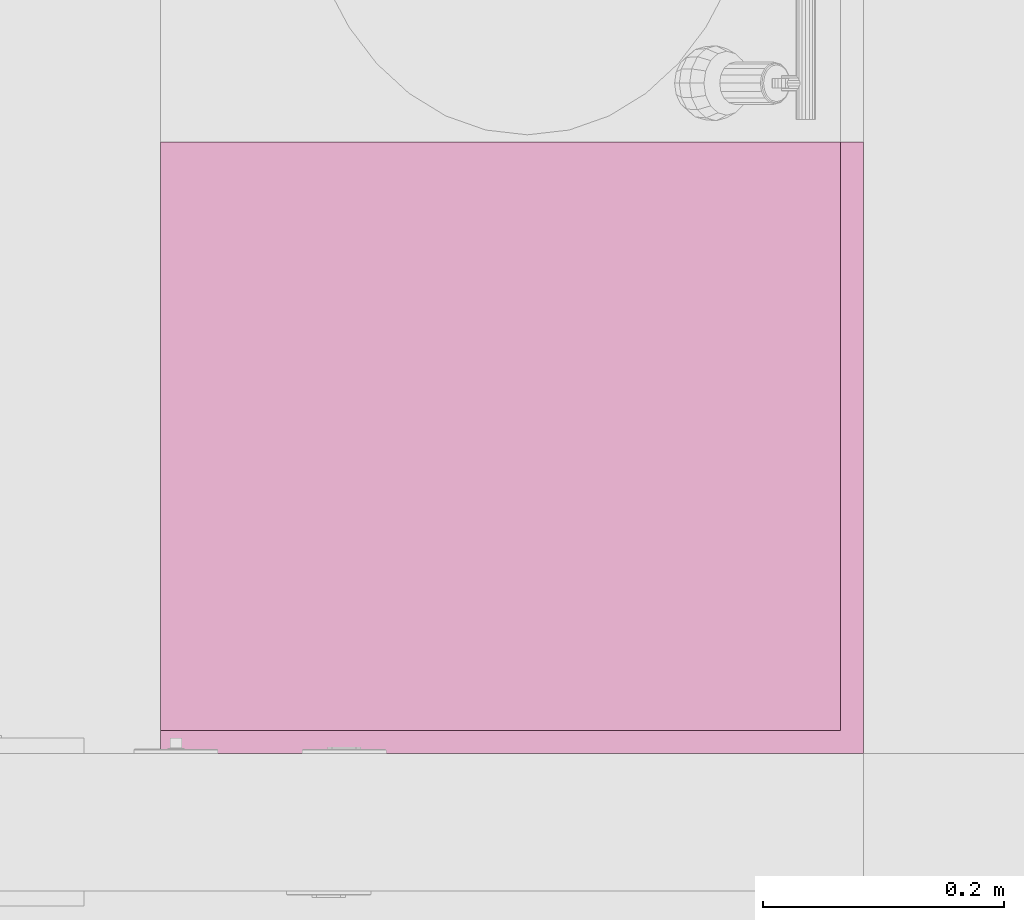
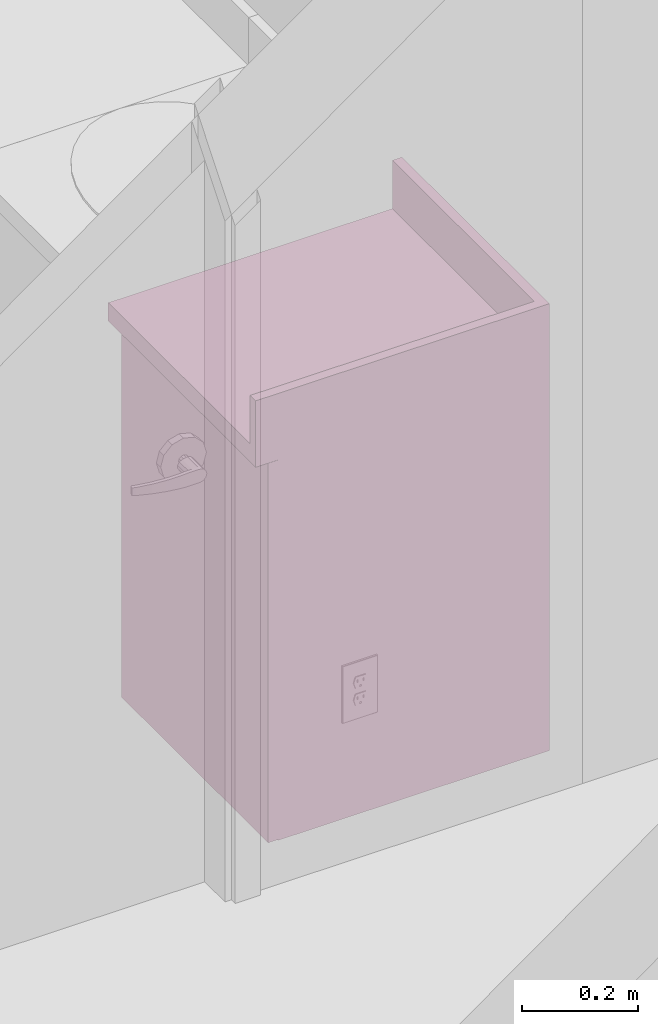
# One storey, part 18 of 48: 1 furnishing.
"""IFC2X3 building model written with IfcOpenShell, lengths in inches."""

from ifc_helpers import new_model, entity, si_unit, converted_unit, derived_unit, money_unit, direction, frame, origin_with_axes, place, context, subcontext, project, spatial, faceted_brep, type_object, element, save


model = new_model("IFC2X3")

# Units and contexts
model_context = context("Model", 3, precision=0.00039370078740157, world=origin_with_axes(), true_north=direction((0.0, 1.0)))
plan_context = context("Plan", 3, precision=0.00039370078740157, world=origin_with_axes(), true_north=direction((0.0, 1.0)))
body_context = subcontext(model_context, "Body", "Model", "MODEL_VIEW")
ifc_project = project(units=[converted_unit("LENGTHUNIT", "INCH", entity("IfcPositiveLengthMeasure", 0.0254), si_unit("LENGTHUNIT", "METRE"), dimensions=[1, 0, 0, 0, 0, 0, 0]), converted_unit("AREAUNIT", "SQUARE_FOOT", entity("IfcPositiveLengthMeasure", 0.09290304), si_unit("AREAUNIT", "SQUARE_METRE"), dimensions=[2, 0, 0, 0, 0, 0, 0]), si_unit("PLANEANGLEUNIT", "RADIAN"), si_unit("SOLIDANGLEUNIT", "STERADIAN"), money_unit("USD"), converted_unit("TIMEUNIT", "Year", entity("IfcTimeMeasure", 31557600.0), si_unit("TIMEUNIT", "SECOND"), dimensions=[0, 0, 1, 0, 0, 0, 0]), si_unit("MASSUNIT", "GRAM", prefix="KILO"), si_unit("THERMODYNAMICTEMPERATUREUNIT", "DEGREE_CELSIUS"), si_unit("LUMINOUSINTENSITYUNIT", "LUMEN"), si_unit("ENERGYUNIT", "JOULE", prefix="MEGA"), derived_unit("SPECIFICHEATCAPACITYUNIT", [(si_unit("ENERGYUNIT", "JOULE"), 1), (si_unit("MASSUNIT", "GRAM", prefix="KILO"), -1), (si_unit("THERMODYNAMICTEMPERATUREUNIT", "KELVIN"), -1)])], contexts=[model_context, plan_context])

# Site, building, storey
site_placement = place(None, origin_with_axes())
site = spatial("IfcSite", under=ifc_project, at=site_placement, Name="Site", CompositionType="ELEMENT")
building_placement = place(site_placement, origin_with_axes())
building = spatial("IfcBuilding", under=site, at=building_placement, Name="Building", CompositionType="ELEMENT")
storey_placement = place(building_placement, origin_with_axes())
storey = spatial("IfcBuildingStorey", under=building, at=storey_placement, Name="First Floor", CompositionType="ELEMENT", Elevation=0.0)

# Furnishing
furniture_type = type_object("IfcFurnitureType", Name="Base Cabinet Block", AssemblyPlace="NOTDEFINED")
furnishing_placement = place(storey_placement, frame((-57.49952807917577, 426.4999999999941, 0.0), z_axis=(0.0, 0.0, 1.0), x_axis=(0.0, -1.0, 0.0)))
element("IfcFurnishingElement", 1, at=furnishing_placement, inside=storey, type_object=furniture_type, Name="FU - 030", context=body_context, shape_type="Brep", body=[
    faceted_brep([(0.0, -22.99999999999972, 31.49999999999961), (0.0, -22.99999999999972, 32.99999999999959), (-19.99999999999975, -22.99999999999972, 32.99999999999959), (-19.99999999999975, -22.99999999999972, 31.49999999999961), (0.0, 0.0, 31.49999999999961), (0.0, 0.0, 32.99999999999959), (-19.99999999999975, 0.0, 32.99999999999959), (-19.99999999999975, 0.0, 31.49999999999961)], [[[0, 1, 2, 3]], [[4, 5, 1, 0]], [[1, 5, 6, 2]], [[3, 2, 6, 7]], [[0, 3, 7, 4]], [[7, 6, 5, 4]]]),
    faceted_brep([(-19.99999999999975, 0.0, 32.99999999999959), (0.0, 0.0, 32.99999999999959), (-0.7499999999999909, -0.7499999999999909, 32.99999999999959), (-19.99999999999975, -0.7499999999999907, 32.99999999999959), (-19.99999999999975, 0.0, 36.99999999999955), (0.0, 0.0, 36.99999999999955), (-0.7499999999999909, -0.7499999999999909, 36.99999999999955), (-19.99999999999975, -0.7499999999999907, 36.99999999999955)], [[[0, 1, 2, 3]], [[4, 5, 1, 0]], [[1, 5, 6, 2]], [[3, 2, 6, 7]], [[0, 3, 7, 4]], [[7, 6, 5, 4]]]),
    faceted_brep([(0.0, 0.0, 32.99999999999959), (0.0, -22.99999999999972, 32.99999999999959), (-0.7499999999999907, -22.99999999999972, 32.99999999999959), (-0.7499999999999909, -0.7499999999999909, 32.99999999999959), (0.0, 0.0, 36.99999999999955), (0.0, -22.99999999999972, 36.99999999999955), (-0.7499999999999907, -22.99999999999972, 36.99999999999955), (-0.7499999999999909, -0.7499999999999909, 36.99999999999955)], [[[0, 1, 2, 3]], [[4, 5, 1, 0]], [[1, 5, 6, 2]], [[3, 2, 6, 7]], [[0, 3, 7, 4]], [[7, 6, 5, 4]]]),
    faceted_brep([(-0.039370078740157, -21.24999999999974, 0.039370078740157), (-0.039370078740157, -21.99999999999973, 0.03937007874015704), (-19.9606299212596, -21.99999999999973, 0.03937007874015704), (-19.9606299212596, -21.24999999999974, 0.039370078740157), (-0.039370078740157, -21.24999999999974, 31.46062992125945), (-0.039370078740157, -21.99999999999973, 31.46062992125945), (-19.9606299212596, -21.99999999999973, 31.46062992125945), (-19.9606299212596, -21.24999999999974, 31.46062992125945)], [[[0, 1, 2, 3]], [[4, 5, 1, 0]], [[1, 5, 6, 2]], [[3, 2, 6, 7]], [[0, 3, 7, 4]], [[7, 6, 5, 4]]]),
    faceted_brep([(-0.7499999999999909, -21.24999999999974, 0.0), (-0.7499999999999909, -21.24999999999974, 0.7499999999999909), (-19.24999999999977, -21.24999999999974, 0.7499999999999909), (-19.24999999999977, -21.24999999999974, 0.0), (-0.7499999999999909, 0.0, 0.0), (-0.7499999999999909, 0.0, 0.7499999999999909), (-19.24999999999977, 0.0, 0.7499999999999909), (-19.24999999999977, 0.0, 0.0)], [[[0, 1, 2, 3]], [[4, 5, 1, 0]], [[1, 5, 6, 2]], [[3, 2, 6, 7]], [[0, 3, 7, 4]], [[7, 6, 5, 4]]]),
    faceted_brep([(-0.7499999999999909, -21.24999999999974, 30.74999999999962), (-19.24999999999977, -21.24999999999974, 30.74999999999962), (-19.24999999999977, -18.88779527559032, 30.74999999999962), (-0.7499999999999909, -18.88779527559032, 30.74999999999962), (-0.7499999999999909, -21.24999999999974, 31.49999999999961), (-19.24999999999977, -21.24999999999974, 31.49999999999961), (-19.24999999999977, -18.88779527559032, 31.49999999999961), (-0.7499999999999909, -18.88779527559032, 31.49999999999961)], [[[0, 1, 2, 3]], [[4, 5, 1, 0]], [[1, 5, 6, 2]], [[3, 2, 6, 7]], [[0, 3, 7, 4]], [[7, 6, 5, 4]]]),
    faceted_brep([(-19.24999999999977, 0.0, 30.74999999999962), (-0.7499999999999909, 0.0, 30.74999999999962), (-0.7499999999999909, -2.36220472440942, 30.74999999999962), (-19.24999999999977, -2.36220472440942, 30.74999999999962), (-19.24999999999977, 0.0, 31.49999999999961), (-0.7499999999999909, 0.0, 31.49999999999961), (-0.7499999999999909, -2.36220472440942, 31.49999999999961), (-19.24999999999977, -2.36220472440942, 31.49999999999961)], [[[0, 1, 2, 3]], [[4, 5, 1, 0]], [[1, 5, 6, 2]], [[3, 2, 6, 7]], [[0, 3, 7, 4]], [[7, 6, 5, 4]]]),
    faceted_brep([(0.0, 0.0, 0.0), (0.0, 0.0, 31.49999999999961), (0.0, -21.24999999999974, 31.49999999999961), (0.0, -21.24999999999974, 0.0), (-0.7499999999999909, 0.0, 0.0), (-0.7499999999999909, 0.0, 31.49999999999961), (-0.7499999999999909, -21.24999999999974, 31.49999999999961), (-0.7499999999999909, -21.24999999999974, 0.0)], [[[0, 1, 2, 3]], [[4, 5, 1, 0]], [[1, 5, 6, 2]], [[3, 2, 6, 7]], [[0, 3, 7, 4]], [[7, 6, 5, 4]]]),
    faceted_brep([(-19.99999999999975, -21.24999999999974, 0.0), (-19.99999999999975, -21.24999999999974, 31.49999999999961), (-19.99999999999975, 0.0, 31.49999999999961), (-19.99999999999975, 0.0, 0.0), (-19.24999999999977, -21.24999999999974, 0.0), (-19.24999999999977, -21.24999999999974, 31.49999999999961), (-19.24999999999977, 0.0, 31.49999999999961), (-19.24999999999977, 0.0, 0.0)], [[[0, 1, 2, 3]], [[4, 5, 1, 0]], [[1, 5, 6, 2]], [[3, 2, 6, 7]], [[0, 3, 7, 4]], [[7, 6, 5, 4]]]),
    faceted_brep([(-19.24999999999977, -0.3749999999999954, 0.7499999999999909), (-19.24999999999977, -0.3749999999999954, 30.74999999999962), (-0.7499999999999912, -0.3749999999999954, 30.74999999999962), (-0.7499999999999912, -0.3749999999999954, 0.7499999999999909), (-19.24999999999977, -0.7499999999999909, 0.7499999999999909), (-19.24999999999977, -0.7499999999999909, 30.74999999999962), (-0.7499999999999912, -0.7499999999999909, 30.74999999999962), (-0.7499999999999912, -0.7499999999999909, 0.7499999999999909)], [[[0, 1, 2, 3]], [[4, 5, 1, 0]], [[1, 5, 6, 2]], [[3, 2, 6, 7]], [[0, 3, 7, 4]], [[7, 6, 5, 4]]]),
])

save(model, "model.ifc")
